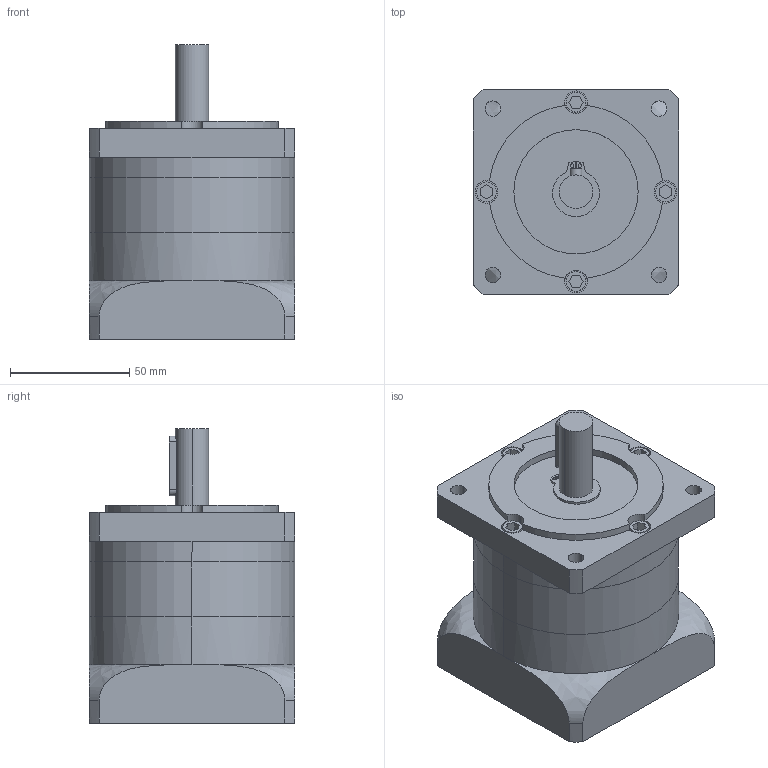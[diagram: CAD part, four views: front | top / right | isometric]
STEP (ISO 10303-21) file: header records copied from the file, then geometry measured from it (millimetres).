
FILE_DESCRIPTION (( 'STEP AP214' ), '1' );
FILE_NAME ('DLF86-L1-( )-J14.step', '2020-11-17T06:01:36', ( 'Moofasta' ), ( '' ), 'SwSTEP 2.0', 'SolidWorks 2020', '' );
FILE_SCHEMA (( 'AUTOMOTIVE_DESIGN' ));
Length unit declared in the file: millimetre
Products named in the file (1): DLF86-L1-( )-J14
Bounding box: 86 x 86 x 123.2 mm (x, y, z)
Volume: 511103.5 mm3; surface area: 83565.3 mm2
Topology: 3 solids, 3 shells, 219 faces, 541 edges, 350 vertices
Faces by surface type: plane 117, cylinder 90, cone 8, bspline 4
Entity records: 7703 total; most frequent: CARTESIAN_POINT 1940, DIRECTION 1143, ORIENTED_EDGE 1066, EDGE_CURVE 533, AXIS2_PLACEMENT_3D 413, VERTEX_POINT 350, VECTOR 317, LINE 317
